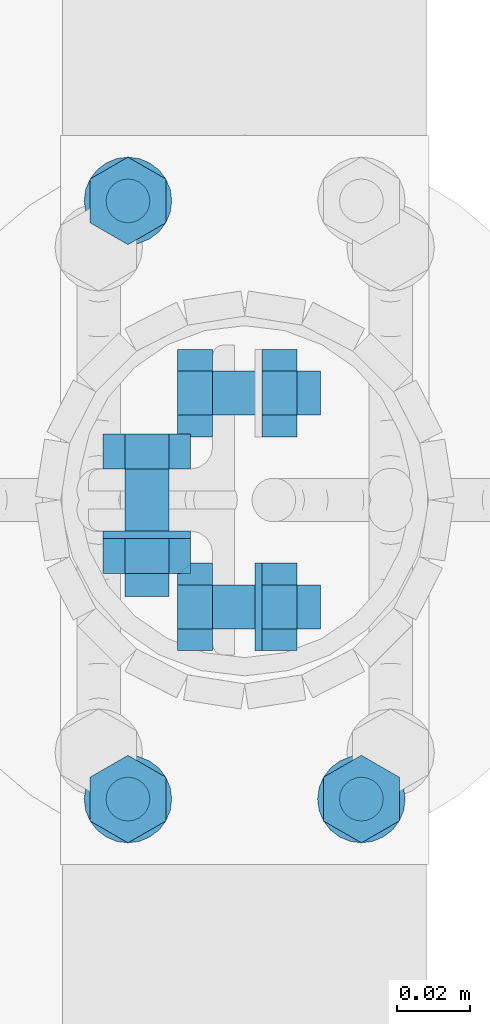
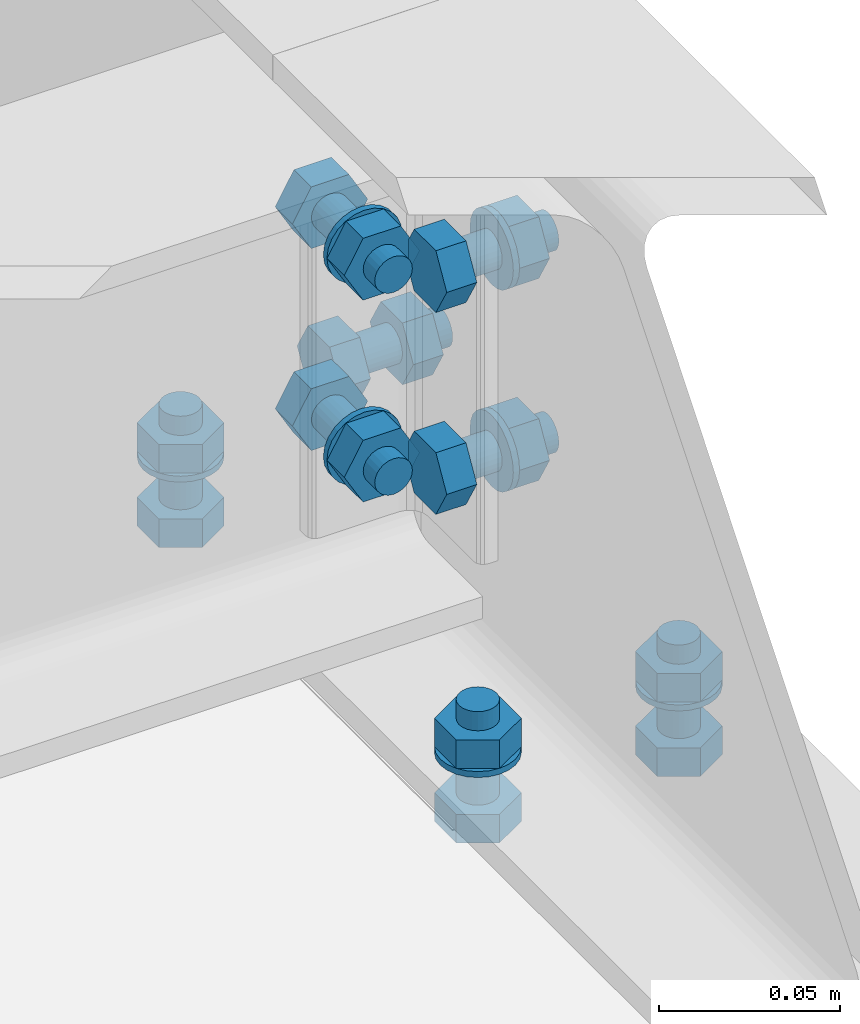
# One storey, part 83 of 84: 39 mechanical fasteners.
"""IFC4 building model written with IfcOpenShell, lengths in metres."""

from ifc_helpers import new_model, si_unit, frame, origin_with_axes, place, context, project, spatial, polyline, outline, extrude, type_object, element, save


model = new_model("IFC4")

# Units and contexts
model_context = context("Model", 3, precision=1e-05, world=origin_with_axes())
ifc_project = project(units=[si_unit("LENGTHUNIT", "METRE"), si_unit("AREAUNIT", "SQUARE_METRE"), si_unit("VOLUMEUNIT", "CUBIC_METRE"), si_unit("MASSUNIT", "GRAM", prefix="KILO"), si_unit("TIMEUNIT", "SECOND"), si_unit("PLANEANGLEUNIT", "RADIAN"), si_unit("SOLIDANGLEUNIT", "STERADIAN"), si_unit("THERMODYNAMICTEMPERATUREUNIT", "DEGREE_CELSIUS")], contexts=[model_context])

# Site, building, storey
placement_1 = place(None, origin_with_axes())
site = spatial("IfcSite", under=ifc_project, at=placement_1, Name="Italia", CompositionType="ELEMENT")
building = spatial("IfcBuilding", under=site, at=placement_1, Name="Tettoia", CompositionType="ELEMENT")
storey_placement = place(None, frame((0.0, 0.0, 4.199999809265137), z_axis=(0.0, 0.0, 1.0), x_axis=(1.0, 0.0, 0.0)))
storey = spatial("IfcBuildingStorey", under=building, at=storey_placement, Name="Storey 1", CompositionType="ELEMENT", Elevation=4.199999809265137)

# Mechanical fasteners
mechanical_fastener_type_1 = type_object("IfcMechanicalFastenerType", Name="Collegamento 0115_-015", PredefinedType="BOLT")
placement_2 = place(placement_1, origin_with_axes())
mechanical_fastener_1_placement = place(placement_2, origin_with_axes())
element("IfcMechanicalFastener", 1, at=mechanical_fastener_1_placement, inside=storey, type_object=mechanical_fastener_type_1, Name="Collegamento 0115_-015", NominalDiameter=0.0119991, context=model_context, shape_type="SweptSolid", body=[
    extrude(outline(polyline([(0.0, 0.0), (0.0119991, 0.0), (0.0179996, -0.0103922), (0.0119991, -0.0207844), (0.0, -0.0207844), (-0.00600052, -0.0103922), (0.0, 0.0)])), frame((4.11239, 19.732, 4.195), z_axis=(0.0, 0.0, -1.0), x_axis=(0.0, 1.0, 0.0)), (0.0, 0.0, 1.0), 0.00959969),
])
mechanical_fastener_type_2 = type_object("IfcMechanicalFastenerType", Name="Collegamento 0115_-015", PredefinedType="BOLT")
mechanical_fastener_2_placement = place(placement_2, origin_with_axes())
element("IfcMechanicalFastener", 2, at=mechanical_fastener_2_placement, inside=storey, type_object=mechanical_fastener_type_2, Name="Collegamento 0115_-015", NominalDiameter=0.012, context=model_context, shape_type="SweptSolid", body=[
    extrude(outline(polyline([(0.0, 0.0), (-0.000204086, -0.00155306), (-0.000804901, -0.00299978), (-0.00175858, -0.00424242), (-0.00300026, -0.00519609), (-0.00444794, -0.00579548), (-0.00600052, -0.00600004), (-0.0075531, -0.00579548), (-0.00900078, -0.00519609), (-0.0102425, -0.00424242), (-0.0111961, -0.00299978), (-0.011797, -0.00155306), (-0.012001, 0.0), (-0.011797, 0.00155306), (-0.0111961, 0.00299978), (-0.0102425, 0.00424242), (-0.00900078, 0.00519609), (-0.0075531, 0.00579548), (-0.00600052, 0.00600004), (-0.00444794, 0.00579548), (-0.00300026, 0.00519609), (-0.00175858, 0.00424242), (-0.000804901, 0.00299978), (-0.000204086, 0.00155306), (0.0, 0.0)])), frame((4.102, 19.744, 4.2265), z_axis=(0.0, 0.0, -1.0), x_axis=(0.0, 1.0, 0.0)), (0.0, 0.0, 1.0), 0.0315003),
])
mechanical_fastener_type_3 = type_object("IfcMechanicalFastenerType", Name="Collegamento 0115_-015", PredefinedType="BOLT")
mechanical_fastener_3_placement = place(placement_2, origin_with_axes())
element("IfcMechanicalFastener", 3, at=mechanical_fastener_3_placement, inside=storey, type_object=mechanical_fastener_type_3, Name="Collegamento 0115_-015", NominalDiameter=0.0119991, context=model_context, shape_type="SweptSolid", body=[
    extrude(outline(polyline([(0.0, 0.0), (0.0119991, 0.0), (0.0179996, -0.0103922), (0.0119991, -0.0207844), (0.0, -0.0207844), (-0.00600052, -0.0103922), (0.0, 0.0)])), frame((4.11239, 19.732, 4.2201), z_axis=(0.0, 0.0, -1.0), x_axis=(0.0, 1.0, 0.0)), (0.0, 0.0, 1.0), 0.00960016),
])
mechanical_fastener_type_4 = type_object("IfcMechanicalFastenerType", Name="Collegamento 0115_-015", PredefinedType="BOLT")
mechanical_fastener_4_placement = place(placement_2, origin_with_axes())
element("IfcMechanicalFastener", 4, at=mechanical_fastener_4_placement, inside=storey, type_object=mechanical_fastener_type_4, Name="Collegamento 0115_-015", NominalDiameter=0.024, context=model_context, shape_type="SweptSolid", body=[
    extrude(outline(polyline([(0.0, 0.0), (-0.000408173, -0.00310564), (-0.00160599, -0.00600004), (-0.00351334, -0.00848532), (-0.00599861, -0.0103922), (-0.00889397, -0.011591), (-0.0119991, -0.0120001), (-0.0151043, -0.011591), (-0.0179996, -0.0103922), (-0.0204849, -0.00848532), (-0.0223923, -0.00600004), (-0.0235901, -0.00310564), (-0.0239983, 0.0), (-0.0235901, 0.00310564), (-0.0223923, 0.00600004), (-0.0204849, 0.00848532), (-0.0179996, 0.0103922), (-0.0151043, 0.011591), (-0.0119991, 0.0120001), (-0.00889397, 0.011591), (-0.00599861, 0.0103922), (-0.00351334, 0.00848532), (-0.00160599, 0.00600004), (-0.000408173, 0.00310564), (0.0, 0.0)])), frame((4.102, 19.75, 4.2105), z_axis=(0.0, 0.0, -1.0), x_axis=(0.0, 1.0, 0.0)), (0.0, 0.0, 1.0), 0.00199986),
])
mechanical_fastener_type_5 = type_object("IfcMechanicalFastenerType", Name="Collegamento 0115_-015", PredefinedType="BOLT")
mechanical_fastener_5_placement = place(placement_2, origin_with_axes())
element("IfcMechanicalFastener", 5, at=mechanical_fastener_5_placement, inside=storey, type_object=mechanical_fastener_type_5, Name="Collegamento 0115_-015", NominalDiameter=0.0119991, context=model_context, shape_type="SweptSolid", body=[
    extrude(outline(polyline([(0.0, 0.0), (0.0119991, 0.0), (0.0179996, -0.0103922), (0.0119991, -0.0207844), (0.0, -0.0207844), (-0.00600052, -0.0103922), (0.0, 0.0)])), frame((4.04839, 19.896, 4.195), z_axis=(0.0, 0.0, -1.0), x_axis=(0.0, 1.0, 0.0)), (0.0, 0.0, 1.0), 0.00959969),
])
mechanical_fastener_type_6 = type_object("IfcMechanicalFastenerType", Name="Collegamento 0115_-015", PredefinedType="BOLT")
mechanical_fastener_6_placement = place(placement_2, origin_with_axes())
element("IfcMechanicalFastener", 6, at=mechanical_fastener_6_placement, inside=storey, type_object=mechanical_fastener_type_6, Name="Collegamento 0115_-015", NominalDiameter=0.012, context=model_context, shape_type="SweptSolid", body=[
    extrude(outline(polyline([(0.0, 0.0), (-0.000204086, -0.00155306), (-0.000804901, -0.00299978), (-0.00175858, -0.00424242), (-0.00300026, -0.00519609), (-0.00444794, -0.00579548), (-0.00600052, -0.00600004), (-0.0075531, -0.00579548), (-0.00900078, -0.00519609), (-0.0102425, -0.00424242), (-0.0111961, -0.00299978), (-0.011797, -0.00155306), (-0.012001, 0.0), (-0.011797, 0.00155306), (-0.0111961, 0.00299978), (-0.0102425, 0.00424242), (-0.00900078, 0.00519609), (-0.0075531, 0.00579548), (-0.00600052, 0.00600004), (-0.00444794, 0.00579548), (-0.00300026, 0.00519609), (-0.00175858, 0.00424242), (-0.000804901, 0.00299978), (-0.000204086, 0.00155306), (0.0, 0.0)])), frame((4.038, 19.908, 4.2265), z_axis=(0.0, 0.0, -1.0), x_axis=(0.0, 1.0, 0.0)), (0.0, 0.0, 1.0), 0.0315003),
])
mechanical_fastener_type_7 = type_object("IfcMechanicalFastenerType", Name="Collegamento 0115_-015", PredefinedType="BOLT")
mechanical_fastener_7_placement = place(placement_2, origin_with_axes())
element("IfcMechanicalFastener", 7, at=mechanical_fastener_7_placement, inside=storey, type_object=mechanical_fastener_type_7, Name="Collegamento 0115_-015", NominalDiameter=0.0119991, context=model_context, shape_type="SweptSolid", body=[
    extrude(outline(polyline([(0.0, 0.0), (0.0119991, 0.0), (0.0179996, -0.0103922), (0.0119991, -0.0207844), (0.0, -0.0207844), (-0.00600052, -0.0103922), (0.0, 0.0)])), frame((4.04839, 19.896, 4.2201), z_axis=(0.0, 0.0, -1.0), x_axis=(0.0, 1.0, 0.0)), (0.0, 0.0, 1.0), 0.00960016),
])
mechanical_fastener_type_8 = type_object("IfcMechanicalFastenerType", Name="Collegamento 0115_-015", PredefinedType="BOLT")
mechanical_fastener_8_placement = place(placement_2, origin_with_axes())
element("IfcMechanicalFastener", 8, at=mechanical_fastener_8_placement, inside=storey, type_object=mechanical_fastener_type_8, Name="Collegamento 0115_-015", NominalDiameter=0.024, context=model_context, shape_type="SweptSolid", body=[
    extrude(outline(polyline([(0.0, 0.0), (-0.000408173, -0.00310564), (-0.00160599, -0.00600004), (-0.00351334, -0.00848532), (-0.00599861, -0.0103922), (-0.00889397, -0.011591), (-0.0119991, -0.0120001), (-0.0151043, -0.011591), (-0.0179996, -0.0103922), (-0.0204849, -0.00848532), (-0.0223923, -0.00600004), (-0.0235901, -0.00310564), (-0.0239983, 0.0), (-0.0235901, 0.00310564), (-0.0223923, 0.00600004), (-0.0204849, 0.00848532), (-0.0179996, 0.0103922), (-0.0151043, 0.011591), (-0.0119991, 0.0120001), (-0.00889397, 0.011591), (-0.00599861, 0.0103922), (-0.00351334, 0.00848532), (-0.00160599, 0.00600004), (-0.000408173, 0.00310564), (0.0, 0.0)])), frame((4.038, 19.914, 4.2105), z_axis=(0.0, 0.0, -1.0), x_axis=(0.0, 1.0, 0.0)), (0.0, 0.0, 1.0), 0.00199986),
])
mechanical_fastener_type_9 = type_object("IfcMechanicalFastenerType", Name="Collegamento 0115_-015", PredefinedType="BOLT")
mechanical_fastener_9_placement = place(placement_2, origin_with_axes())
element("IfcMechanicalFastener", 9, at=mechanical_fastener_9_placement, inside=storey, type_object=mechanical_fastener_type_9, Name="Collegamento 0115_-015", NominalDiameter=0.0119991, context=model_context, shape_type="SweptSolid", body=[
    extrude(outline(polyline([(0.0, 0.0), (0.0119991, 0.0), (0.0179996, -0.0103922), (0.0119991, -0.0207844), (0.0, -0.0207844), (-0.00600052, -0.0103922), (0.0, 0.0)])), frame((4.04839, 19.732, 4.195), z_axis=(0.0, 0.0, -1.0), x_axis=(0.0, 1.0, 0.0)), (0.0, 0.0, 1.0), 0.00959969),
])
mechanical_fastener_type_10 = type_object("IfcMechanicalFastenerType", Name="Collegamento 0115_-015", PredefinedType="BOLT")
mechanical_fastener_10_placement = place(placement_2, origin_with_axes())
element("IfcMechanicalFastener", 10, at=mechanical_fastener_10_placement, inside=storey, type_object=mechanical_fastener_type_10, Name="Collegamento 0115_-015", NominalDiameter=0.012, context=model_context, shape_type="SweptSolid", body=[
    extrude(outline(polyline([(0.0, 0.0), (-0.000204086, -0.00155306), (-0.000804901, -0.00299978), (-0.00175858, -0.00424242), (-0.00300026, -0.00519609), (-0.00444794, -0.00579548), (-0.00600052, -0.00600004), (-0.0075531, -0.00579548), (-0.00900078, -0.00519609), (-0.0102425, -0.00424242), (-0.0111961, -0.00299978), (-0.011797, -0.00155306), (-0.012001, 0.0), (-0.011797, 0.00155306), (-0.0111961, 0.00299978), (-0.0102425, 0.00424242), (-0.00900078, 0.00519609), (-0.0075531, 0.00579548), (-0.00600052, 0.00600004), (-0.00444794, 0.00579548), (-0.00300026, 0.00519609), (-0.00175858, 0.00424242), (-0.000804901, 0.00299978), (-0.000204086, 0.00155306), (0.0, 0.0)])), frame((4.038, 19.744, 4.2265), z_axis=(0.0, 0.0, -1.0), x_axis=(0.0, 1.0, 0.0)), (0.0, 0.0, 1.0), 0.0315003),
])
mechanical_fastener_type_11 = type_object("IfcMechanicalFastenerType", Name="Collegamento 0115_-015", PredefinedType="BOLT")
mechanical_fastener_11_placement = place(placement_2, origin_with_axes())
element("IfcMechanicalFastener", 11, at=mechanical_fastener_11_placement, inside=storey, type_object=mechanical_fastener_type_11, Name="Collegamento 0115_-015", NominalDiameter=0.0119991, context=model_context, shape_type="SweptSolid", body=[
    extrude(outline(polyline([(0.0, 0.0), (0.0119991, 0.0), (0.0179996, -0.0103922), (0.0119991, -0.0207844), (0.0, -0.0207844), (-0.00600052, -0.0103922), (0.0, 0.0)])), frame((4.04839, 19.732, 4.2201), z_axis=(0.0, 0.0, -1.0), x_axis=(0.0, 1.0, 0.0)), (0.0, 0.0, 1.0), 0.00960016),
])
mechanical_fastener_type_12 = type_object("IfcMechanicalFastenerType", Name="Collegamento 0115_-015", PredefinedType="BOLT")
mechanical_fastener_12_placement = place(placement_2, origin_with_axes())
element("IfcMechanicalFastener", 12, at=mechanical_fastener_12_placement, inside=storey, type_object=mechanical_fastener_type_12, Name="Collegamento 0115_-015", NominalDiameter=0.024, context=model_context, shape_type="SweptSolid", body=[
    extrude(outline(polyline([(0.0, 0.0), (-0.000408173, -0.00310564), (-0.00160599, -0.00600004), (-0.00351334, -0.00848532), (-0.00599861, -0.0103922), (-0.00889397, -0.011591), (-0.0119991, -0.0120001), (-0.0151043, -0.011591), (-0.0179996, -0.0103922), (-0.0204849, -0.00848532), (-0.0223923, -0.00600004), (-0.0235901, -0.00310564), (-0.0239983, 0.0), (-0.0235901, 0.00310564), (-0.0223923, 0.00600004), (-0.0204849, 0.00848532), (-0.0179996, 0.0103922), (-0.0151043, 0.011591), (-0.0119991, 0.0120001), (-0.00889397, 0.011591), (-0.00599861, 0.0103922), (-0.00351334, 0.00848532), (-0.00160599, 0.00600004), (-0.000408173, 0.00310564), (0.0, 0.0)])), frame((4.038, 19.75, 4.2105), z_axis=(0.0, 0.0, -1.0), x_axis=(0.0, 1.0, 0.0)), (0.0, 0.0, 1.0), 0.00199986),
])
mechanical_fastener_type_13 = type_object("IfcMechanicalFastenerType", Name="Collegamento 0115_0114", PredefinedType="BOLT")
mechanical_fastener_13_placement = place(placement_2, origin_with_axes())
element("IfcMechanicalFastener", 13, at=mechanical_fastener_13_placement, inside=storey, type_object=mechanical_fastener_type_13, Name="Collegamento 0115_0114", NominalDiameter=0.0119997, context=model_context, shape_type="SweptSolid", body=[
    extrude(outline(polyline([(0.0, 0.0), (-0.0120001, 0.0), (-0.0180001, 0.0103922), (-0.0120001, 0.0207844), (0.0, 0.0207844), (0.00599957, 0.0103922), (0.0, 0.0)])), frame((4.0372, 19.8285, 4.25561), z_axis=(0.0, 1.0, 0.0), x_axis=(-1.0, 0.0, 0.0)), (0.0, 0.0, 1.0), 0.00960159),
])
mechanical_fastener_type_14 = type_object("IfcMechanicalFastenerType", Name="Collegamento 0115_0114", PredefinedType="BOLT")
mechanical_fastener_14_placement = place(placement_2, origin_with_axes())
element("IfcMechanicalFastener", 14, at=mechanical_fastener_14_placement, inside=storey, type_object=mechanical_fastener_type_14, Name="Collegamento 0115_0114", NominalDiameter=0.012, context=model_context, shape_type="SweptSolid", body=[
    extrude(outline(polyline([(0.0, 0.0), (-0.000204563, -0.00155306), (-0.000803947, -0.00299978), (-0.00175762, -0.00424242), (-0.00300026, -0.00519609), (-0.00444698, -0.00579548), (-0.00600004, -0.00600004), (-0.0075531, -0.00579548), (-0.00899982, -0.00519609), (-0.0102425, -0.00424242), (-0.0111961, -0.00299978), (-0.0117955, -0.00155306), (-0.0120001, 0.0), (-0.0117955, 0.00155306), (-0.0111961, 0.00299978), (-0.0102425, 0.00424242), (-0.00899982, 0.00519609), (-0.0075531, 0.00579548), (-0.00600004, 0.00600004), (-0.00444698, 0.00579548), (-0.00300026, 0.00519609), (-0.00175762, 0.00424242), (-0.000803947, 0.00299978), (-0.000204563, 0.00155306), (0.0, 0.0)])), frame((4.0372, 19.7935, 4.266), z_axis=(0.0, 1.0, 0.0), x_axis=(-1.0, 0.0, 0.0)), (0.0, 0.0, 1.0), 0.0349998),
])
mechanical_fastener_type_15 = type_object("IfcMechanicalFastenerType", Name="Collegamento 0115_0114", PredefinedType="BOLT")
mechanical_fastener_15_placement = place(placement_2, origin_with_axes())
element("IfcMechanicalFastener", 15, at=mechanical_fastener_15_placement, inside=storey, type_object=mechanical_fastener_type_15, Name="Collegamento 0115_0114", NominalDiameter=0.0119997, context=model_context, shape_type="SweptSolid", body=[
    extrude(outline(polyline([(0.0, 0.0), (-0.0120001, 0.0), (-0.0180001, 0.0103922), (-0.0120001, 0.0207844), (0.0, 0.0207844), (0.00599957, 0.0103922), (0.0, 0.0)])), frame((4.0372, 19.7999, 4.25561), z_axis=(0.0, 1.0, 0.0), x_axis=(-1.0, 0.0, 0.0)), (0.0, 0.0, 1.0), 0.00959969),
])
mechanical_fastener_type_16 = type_object("IfcMechanicalFastenerType", Name="Collegamento 0115_0114", PredefinedType="BOLT")
mechanical_fastener_16_placement = place(placement_2, origin_with_axes())
element("IfcMechanicalFastener", 16, at=mechanical_fastener_16_placement, inside=storey, type_object=mechanical_fastener_type_16, Name="Collegamento 0115_0114", NominalDiameter=0.024, context=model_context, shape_type="SweptSolid", body=[
    extrude(outline(polyline([(0.0, 0.0), (-0.000409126, -0.00310564), (-0.00160789, -0.00600004), (-0.00351477, -0.00848532), (-0.00600004, -0.0103922), (-0.00889444, -0.011591), (-0.0120001, -0.0120001), (-0.0151057, -0.011591), (-0.0180001, -0.0103922), (-0.0204854, -0.00848532), (-0.0223923, -0.00600004), (-0.023591, -0.00310564), (-0.0240002, 0.0), (-0.023591, 0.00310564), (-0.0223923, 0.00600004), (-0.0204854, 0.00848532), (-0.0180001, 0.0103922), (-0.0151057, 0.011591), (-0.0120001, 0.0120001), (-0.00889444, 0.011591), (-0.00600004, 0.0103922), (-0.00351477, 0.00848532), (-0.00160789, 0.00600004), (-0.000409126, 0.00310564), (0.0, 0.0)])), frame((4.0312, 19.8095, 4.266), z_axis=(0.0, 1.0, 0.0), x_axis=(-1.0, 0.0, 0.0)), (0.0, 0.0, 1.0), 0.00200081),
])
mechanical_fastener_type_17 = type_object("IfcMechanicalFastenerType", Name="Collegamento 0115_0114", PredefinedType="BOLT")
mechanical_fastener_17_placement = place(placement_2, origin_with_axes())
element("IfcMechanicalFastener", 17, at=mechanical_fastener_17_placement, inside=storey, type_object=mechanical_fastener_type_17, Name="Collegamento 0115_0114", NominalDiameter=0.0119997, context=model_context, shape_type="SweptSolid", body=[
    extrude(outline(polyline([(0.0, 0.0), (-0.0120001, 0.0), (-0.0180001, 0.0103922), (-0.0120001, 0.0207844), (0.0, 0.0207844), (0.00599957, 0.0103922), (0.0, 0.0)])), frame((4.0372, 19.8285, 4.32361), z_axis=(0.0, 1.0, 0.0), x_axis=(-1.0, 0.0, 0.0)), (0.0, 0.0, 1.0), 0.00960159),
])
mechanical_fastener_type_18 = type_object("IfcMechanicalFastenerType", Name="Collegamento 0115_0114", PredefinedType="BOLT")
mechanical_fastener_18_placement = place(placement_2, origin_with_axes())
element("IfcMechanicalFastener", 18, at=mechanical_fastener_18_placement, inside=storey, type_object=mechanical_fastener_type_18, Name="Collegamento 0115_0114", NominalDiameter=0.012, context=model_context, shape_type="SweptSolid", body=[
    extrude(outline(polyline([(0.0, 0.0), (-0.000204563, -0.00155306), (-0.000803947, -0.00299978), (-0.00175762, -0.00424242), (-0.00300026, -0.00519609), (-0.00444698, -0.00579548), (-0.00600004, -0.00600004), (-0.0075531, -0.00579548), (-0.00899982, -0.00519609), (-0.0102425, -0.00424242), (-0.0111961, -0.00299978), (-0.0117955, -0.00155306), (-0.0120001, 0.0), (-0.0117955, 0.00155306), (-0.0111961, 0.00299978), (-0.0102425, 0.00424242), (-0.00899982, 0.00519609), (-0.0075531, 0.00579548), (-0.00600004, 0.00600004), (-0.00444698, 0.00579548), (-0.00300026, 0.00519609), (-0.00175762, 0.00424242), (-0.000803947, 0.00299978), (-0.000204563, 0.00155306), (0.0, 0.0)])), frame((4.0372, 19.7935, 4.334), z_axis=(0.0, 1.0, 0.0), x_axis=(-1.0, 0.0, 0.0)), (0.0, 0.0, 1.0), 0.0349998),
])
mechanical_fastener_type_19 = type_object("IfcMechanicalFastenerType", Name="Collegamento 0115_0114", PredefinedType="BOLT")
mechanical_fastener_19_placement = place(placement_2, origin_with_axes())
element("IfcMechanicalFastener", 19, at=mechanical_fastener_19_placement, inside=storey, type_object=mechanical_fastener_type_19, Name="Collegamento 0115_0114", NominalDiameter=0.0119997, context=model_context, shape_type="SweptSolid", body=[
    extrude(outline(polyline([(0.0, 0.0), (-0.0120001, 0.0), (-0.0180001, 0.0103922), (-0.0120001, 0.0207844), (0.0, 0.0207844), (0.00599957, 0.0103922), (0.0, 0.0)])), frame((4.0372, 19.7999, 4.32361), z_axis=(0.0, 1.0, 0.0), x_axis=(-1.0, 0.0, 0.0)), (0.0, 0.0, 1.0), 0.00959969),
])
mechanical_fastener_type_20 = type_object("IfcMechanicalFastenerType", Name="Collegamento 0115_0114", PredefinedType="BOLT")
mechanical_fastener_20_placement = place(placement_2, origin_with_axes())
element("IfcMechanicalFastener", 20, at=mechanical_fastener_20_placement, inside=storey, type_object=mechanical_fastener_type_20, Name="Collegamento 0115_0114", NominalDiameter=0.024, context=model_context, shape_type="SweptSolid", body=[
    extrude(outline(polyline([(0.0, 0.0), (-0.000409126, -0.00310564), (-0.00160789, -0.00600004), (-0.00351477, -0.00848532), (-0.00600004, -0.0103922), (-0.00889444, -0.011591), (-0.0120001, -0.0120001), (-0.0151057, -0.011591), (-0.0180001, -0.0103922), (-0.0204854, -0.00848532), (-0.0223923, -0.00600004), (-0.023591, -0.00310564), (-0.0240002, 0.0), (-0.023591, 0.00310564), (-0.0223923, 0.00600004), (-0.0204854, 0.00848532), (-0.0180001, 0.0103922), (-0.0151057, 0.011591), (-0.0120001, 0.0120001), (-0.00889444, 0.011591), (-0.00600004, 0.0103922), (-0.00351477, 0.00848532), (-0.00160789, 0.00600004), (-0.000409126, 0.00310564), (0.0, 0.0)])), frame((4.0312, 19.8095, 4.334), z_axis=(0.0, 1.0, 0.0), x_axis=(-1.0, 0.0, 0.0)), (0.0, 0.0, 1.0), 0.00200081),
])
mechanical_fastener_type_21 = type_object("IfcMechanicalFastenerType", Name="Collegamento 0115_0114", PredefinedType="BOLT")
mechanical_fastener_21_placement = place(placement_2, origin_with_axes())
element("IfcMechanicalFastener", 21, at=mechanical_fastener_21_placement, inside=storey, type_object=mechanical_fastener_type_21, Name="Collegamento 0115_0114", NominalDiameter=0.0119997, context=model_context, shape_type="SweptSolid", body=[
    extrude(outline(polyline([(0.0, 0.0), (-0.0120001, 0.0), (-0.0180001, 0.0103922), (-0.0120001, 0.0207844), (0.0, 0.0207844), (0.00599957, 0.0103922), (0.0, 0.0)])), frame((4.0372, 19.8285, 4.25561), z_axis=(0.0, 1.0, 0.0), x_axis=(-1.0, 0.0, 0.0)), (0.0, 0.0, 1.0), 0.00960159),
])
mechanical_fastener_type_22 = type_object("IfcMechanicalFastenerType", Name="Collegamento 0115_0114", PredefinedType="BOLT")
mechanical_fastener_22_placement = place(placement_2, origin_with_axes())
element("IfcMechanicalFastener", 22, at=mechanical_fastener_22_placement, inside=storey, type_object=mechanical_fastener_type_22, Name="Collegamento 0115_0114", NominalDiameter=0.012, context=model_context, shape_type="SweptSolid", body=[
    extrude(outline(polyline([(0.0, 0.0), (-0.000204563, -0.00155306), (-0.000803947, -0.00299978), (-0.00175762, -0.00424242), (-0.00300026, -0.00519609), (-0.00444698, -0.00579548), (-0.00600004, -0.00600004), (-0.0075531, -0.00579548), (-0.00899982, -0.00519609), (-0.0102425, -0.00424242), (-0.0111961, -0.00299978), (-0.0117955, -0.00155306), (-0.0120001, 0.0), (-0.0117955, 0.00155306), (-0.0111961, 0.00299978), (-0.0102425, 0.00424242), (-0.00899982, 0.00519609), (-0.0075531, 0.00579548), (-0.00600004, 0.00600004), (-0.00444698, 0.00579548), (-0.00300026, 0.00519609), (-0.00175762, 0.00424242), (-0.000803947, 0.00299978), (-0.000204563, 0.00155306), (0.0, 0.0)])), frame((4.0372, 19.7935, 4.266), z_axis=(0.0, 1.0, 0.0), x_axis=(-1.0, 0.0, 0.0)), (0.0, 0.0, 1.0), 0.0349998),
])
mechanical_fastener_type_23 = type_object("IfcMechanicalFastenerType", Name="Collegamento 0115_0114", PredefinedType="BOLT")
mechanical_fastener_23_placement = place(placement_2, origin_with_axes())
element("IfcMechanicalFastener", 23, at=mechanical_fastener_23_placement, inside=storey, type_object=mechanical_fastener_type_23, Name="Collegamento 0115_0114", NominalDiameter=0.0119997, context=model_context, shape_type="SweptSolid", body=[
    extrude(outline(polyline([(0.0, 0.0), (-0.0120001, 0.0), (-0.0180001, 0.0103922), (-0.0120001, 0.0207844), (0.0, 0.0207844), (0.00599957, 0.0103922), (0.0, 0.0)])), frame((4.0372, 19.7999, 4.25561), z_axis=(0.0, 1.0, 0.0), x_axis=(-1.0, 0.0, 0.0)), (0.0, 0.0, 1.0), 0.00959969),
])
mechanical_fastener_type_24 = type_object("IfcMechanicalFastenerType", Name="Collegamento 0115_0114", PredefinedType="BOLT")
mechanical_fastener_24_placement = place(placement_2, origin_with_axes())
element("IfcMechanicalFastener", 24, at=mechanical_fastener_24_placement, inside=storey, type_object=mechanical_fastener_type_24, Name="Collegamento 0115_0114", NominalDiameter=0.024, context=model_context, shape_type="SweptSolid", body=[
    extrude(outline(polyline([(0.0, 0.0), (-0.000409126, -0.00310564), (-0.00160789, -0.00600004), (-0.00351477, -0.00848532), (-0.00600004, -0.0103922), (-0.00889444, -0.011591), (-0.0120001, -0.0120001), (-0.0151057, -0.011591), (-0.0180001, -0.0103922), (-0.0204854, -0.00848532), (-0.0223923, -0.00600004), (-0.023591, -0.00310564), (-0.0240002, 0.0), (-0.023591, 0.00310564), (-0.0223923, 0.00600004), (-0.0204854, 0.00848532), (-0.0180001, 0.0103922), (-0.0151057, 0.011591), (-0.0120001, 0.0120001), (-0.00889444, 0.011591), (-0.00600004, 0.0103922), (-0.00351477, 0.00848532), (-0.00160789, 0.00600004), (-0.000409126, 0.00310564), (0.0, 0.0)])), frame((4.0312, 19.8095, 4.266), z_axis=(0.0, 1.0, 0.0), x_axis=(-1.0, 0.0, 0.0)), (0.0, 0.0, 1.0), 0.00200081),
])
mechanical_fastener_type_25 = type_object("IfcMechanicalFastenerType", Name="Collegamento 0115_0114", PredefinedType="BOLT")
mechanical_fastener_25_placement = place(placement_2, origin_with_axes())
element("IfcMechanicalFastener", 25, at=mechanical_fastener_25_placement, inside=storey, type_object=mechanical_fastener_type_25, Name="Collegamento 0115_0114", NominalDiameter=0.0119997, context=model_context, shape_type="SweptSolid", body=[
    extrude(outline(polyline([(0.0, 0.0), (-0.0120001, 0.0), (-0.0180001, 0.0103922), (-0.0120001, 0.0207844), (0.0, 0.0207844), (0.00599957, 0.0103922), (0.0, 0.0)])), frame((4.0372, 19.8285, 4.32361), z_axis=(0.0, 1.0, 0.0), x_axis=(-1.0, 0.0, 0.0)), (0.0, 0.0, 1.0), 0.00960159),
])
mechanical_fastener_type_26 = type_object("IfcMechanicalFastenerType", Name="Collegamento 0115_0114", PredefinedType="BOLT")
mechanical_fastener_26_placement = place(placement_2, origin_with_axes())
element("IfcMechanicalFastener", 26, at=mechanical_fastener_26_placement, inside=storey, type_object=mechanical_fastener_type_26, Name="Collegamento 0115_0114", NominalDiameter=0.012, context=model_context, shape_type="SweptSolid", body=[
    extrude(outline(polyline([(0.0, 0.0), (-0.000204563, -0.00155306), (-0.000803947, -0.00299978), (-0.00175762, -0.00424242), (-0.00300026, -0.00519609), (-0.00444698, -0.00579548), (-0.00600004, -0.00600004), (-0.0075531, -0.00579548), (-0.00899982, -0.00519609), (-0.0102425, -0.00424242), (-0.0111961, -0.00299978), (-0.0117955, -0.00155306), (-0.0120001, 0.0), (-0.0117955, 0.00155306), (-0.0111961, 0.00299978), (-0.0102425, 0.00424242), (-0.00899982, 0.00519609), (-0.0075531, 0.00579548), (-0.00600004, 0.00600004), (-0.00444698, 0.00579548), (-0.00300026, 0.00519609), (-0.00175762, 0.00424242), (-0.000803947, 0.00299978), (-0.000204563, 0.00155306), (0.0, 0.0)])), frame((4.0372, 19.7935, 4.334), z_axis=(0.0, 1.0, 0.0), x_axis=(-1.0, 0.0, 0.0)), (0.0, 0.0, 1.0), 0.0349998),
])
mechanical_fastener_type_27 = type_object("IfcMechanicalFastenerType", Name="Collegamento 0115_0114", PredefinedType="BOLT")
mechanical_fastener_27_placement = place(placement_2, origin_with_axes())
element("IfcMechanicalFastener", 27, at=mechanical_fastener_27_placement, inside=storey, type_object=mechanical_fastener_type_27, Name="Collegamento 0115_0114", NominalDiameter=0.0119997, context=model_context, shape_type="SweptSolid", body=[
    extrude(outline(polyline([(0.0, 0.0), (-0.0120001, 0.0), (-0.0180001, 0.0103922), (-0.0120001, 0.0207844), (0.0, 0.0207844), (0.00599957, 0.0103922), (0.0, 0.0)])), frame((4.0372, 19.7999, 4.32361), z_axis=(0.0, 1.0, 0.0), x_axis=(-1.0, 0.0, 0.0)), (0.0, 0.0, 1.0), 0.00959969),
])
mechanical_fastener_type_28 = type_object("IfcMechanicalFastenerType", Name="Collegamento 0115_0114", PredefinedType="BOLT")
mechanical_fastener_28_placement = place(placement_2, origin_with_axes())
element("IfcMechanicalFastener", 28, at=mechanical_fastener_28_placement, inside=storey, type_object=mechanical_fastener_type_28, Name="Collegamento 0115_0114", NominalDiameter=0.024, context=model_context, shape_type="SweptSolid", body=[
    extrude(outline(polyline([(0.0, 0.0), (-0.000409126, -0.00310564), (-0.00160789, -0.00600004), (-0.00351477, -0.00848532), (-0.00600004, -0.0103922), (-0.00889444, -0.011591), (-0.0120001, -0.0120001), (-0.0151057, -0.011591), (-0.0180001, -0.0103922), (-0.0204854, -0.00848532), (-0.0223923, -0.00600004), (-0.023591, -0.00310564), (-0.0240002, 0.0), (-0.023591, 0.00310564), (-0.0223923, 0.00600004), (-0.0204854, 0.00848532), (-0.0180001, 0.0103922), (-0.0151057, 0.011591), (-0.0120001, 0.0120001), (-0.00889444, 0.011591), (-0.00600004, 0.0103922), (-0.00351477, 0.00848532), (-0.00160789, 0.00600004), (-0.000409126, 0.00310564), (0.0, 0.0)])), frame((4.0312, 19.8095, 4.334), z_axis=(0.0, 1.0, 0.0), x_axis=(-1.0, 0.0, 0.0)), (0.0, 0.0, 1.0), 0.00200081),
])
mechanical_fastener_type_29 = type_object("IfcMechanicalFastenerType", Name="Collegamento 0115_0114", PredefinedType="BOLT")
mechanical_fastener_29_placement = place(placement_2, origin_with_axes())
element("IfcMechanicalFastener", 29, at=mechanical_fastener_29_placement, inside=storey, type_object=mechanical_fastener_type_29, Name="Collegamento 0115_0114", NominalDiameter=0.0119991, context=model_context, shape_type="SweptSolid", body=[
    extrude(outline(polyline([(0.0, 0.0), (-0.0119991, 0.0), (-0.0179996, 0.0103922), (-0.0119991, 0.0207844), (0.0, 0.0207844), (0.00600052, 0.0103922), (0.0, 0.0)])), frame((4.0612, 19.7847, 4.25561), z_axis=(-1.0, 0.0, 0.0), x_axis=(0.0, -1.0, 0.0)), (0.0, 0.0, 1.0), 0.00960016),
])
mechanical_fastener_type_30 = type_object("IfcMechanicalFastenerType", Name="Collegamento 0115_0114", PredefinedType="BOLT")
mechanical_fastener_30_placement = place(placement_2, origin_with_axes())
element("IfcMechanicalFastener", 30, at=mechanical_fastener_30_placement, inside=storey, type_object=mechanical_fastener_type_30, Name="Collegamento 0115_0114", NominalDiameter=0.012, context=model_context, shape_type="SweptSolid", body=[
    extrude(outline(polyline([(0.0, 0.0), (-0.000204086, -0.00155306), (-0.000804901, -0.00299978), (-0.00175858, -0.00424242), (-0.00300026, -0.00519609), (-0.00444794, -0.00579548), (-0.00600052, -0.00600004), (-0.0075531, -0.00579548), (-0.00900078, -0.00519609), (-0.0102425, -0.00424242), (-0.0111961, -0.00299978), (-0.011797, -0.00155306), (-0.012001, 0.0), (-0.011797, 0.00155306), (-0.0111961, 0.00299978), (-0.0102425, 0.00424242), (-0.00900078, 0.00519609), (-0.0075531, 0.00579548), (-0.00600052, 0.00600004), (-0.00444794, 0.00579548), (-0.00300026, 0.00519609), (-0.00175858, 0.00424242), (-0.000804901, 0.00299978), (-0.000204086, 0.00155306), (0.0, 0.0)])), frame((4.0908, 19.7847, 4.266), z_axis=(-1.0, 0.0, 0.0), x_axis=(0.0, -1.0, 0.0)), (0.0, 0.0, 1.0), 0.0296001),
])
mechanical_fastener_type_31 = type_object("IfcMechanicalFastenerType", Name="Collegamento 0115_0114", PredefinedType="BOLT")
mechanical_fastener_31_placement = place(placement_2, origin_with_axes())
element("IfcMechanicalFastener", 31, at=mechanical_fastener_31_placement, inside=storey, type_object=mechanical_fastener_type_31, Name="Collegamento 0115_0114", NominalDiameter=0.0119991, context=model_context, shape_type="SweptSolid", body=[
    extrude(outline(polyline([(0.0, 0.0), (-0.0119991, 0.0), (-0.0179996, 0.0103922), (-0.0119991, 0.0207844), (0.0, 0.0207844), (0.00600052, 0.0103922), (0.0, 0.0)])), frame((4.0844, 19.7847, 4.25561), z_axis=(-1.0, 0.0, 0.0), x_axis=(0.0, -1.0, 0.0)), (0.0, 0.0, 1.0), 0.00960016),
])
mechanical_fastener_type_32 = type_object("IfcMechanicalFastenerType", Name="Collegamento 0115_0114", PredefinedType="BOLT")
mechanical_fastener_32_placement = place(placement_2, origin_with_axes())
element("IfcMechanicalFastener", 32, at=mechanical_fastener_32_placement, inside=storey, type_object=mechanical_fastener_type_32, Name="Collegamento 0115_0114", NominalDiameter=0.024, context=model_context, shape_type="SweptSolid", body=[
    extrude(outline(polyline([(0.0, 0.0), (-0.000408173, -0.00310564), (-0.00160599, -0.00600004), (-0.00351334, -0.00848532), (-0.00599861, -0.0103922), (-0.00889397, -0.011591), (-0.0119991, -0.0120001), (-0.0151043, -0.011591), (-0.0179996, -0.0103922), (-0.0204849, -0.00848532), (-0.0223923, -0.00600004), (-0.0235901, -0.00310564), (-0.0239983, 0.0), (-0.0235901, 0.00310564), (-0.0223923, 0.00600004), (-0.0204849, 0.00848532), (-0.0179996, 0.0103922), (-0.0151043, 0.011591), (-0.0119991, 0.0120001), (-0.00889397, 0.011591), (-0.00599861, 0.0103922), (-0.00351334, 0.00848532), (-0.00160599, 0.00600004), (-0.000408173, 0.00310564), (0.0, 0.0)])), frame((4.0748, 19.7787, 4.266), z_axis=(-1.0, 0.0, 0.0), x_axis=(0.0, -1.0, 0.0)), (0.0, 0.0, 1.0), 0.00199986),
])
mechanical_fastener_type_33 = type_object("IfcMechanicalFastenerType", Name="Collegamento 0115_0114", PredefinedType="BOLT")
mechanical_fastener_33_placement = place(placement_2, origin_with_axes())
element("IfcMechanicalFastener", 33, at=mechanical_fastener_33_placement, inside=storey, type_object=mechanical_fastener_type_33, Name="Collegamento 0115_0114", NominalDiameter=0.0119991, context=model_context, shape_type="SweptSolid", body=[
    extrude(outline(polyline([(0.0, 0.0), (-0.0119991, 0.0), (-0.0179996, 0.0103922), (-0.0119991, 0.0207844), (0.0, 0.0207844), (0.00600052, 0.0103922), (0.0, 0.0)])), frame((4.0612, 19.7847, 4.32361), z_axis=(-1.0, 0.0, 0.0), x_axis=(0.0, -1.0, 0.0)), (0.0, 0.0, 1.0), 0.00960016),
])
mechanical_fastener_type_34 = type_object("IfcMechanicalFastenerType", Name="Collegamento 0115_0114", PredefinedType="BOLT")
mechanical_fastener_34_placement = place(placement_2, origin_with_axes())
element("IfcMechanicalFastener", 34, at=mechanical_fastener_34_placement, inside=storey, type_object=mechanical_fastener_type_34, Name="Collegamento 0115_0114", NominalDiameter=0.012, context=model_context, shape_type="SweptSolid", body=[
    extrude(outline(polyline([(0.0, 0.0), (-0.000204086, -0.00155306), (-0.000804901, -0.00299978), (-0.00175858, -0.00424242), (-0.00300026, -0.00519609), (-0.00444794, -0.00579548), (-0.00600052, -0.00600004), (-0.0075531, -0.00579548), (-0.00900078, -0.00519609), (-0.0102425, -0.00424242), (-0.0111961, -0.00299978), (-0.011797, -0.00155306), (-0.012001, 0.0), (-0.011797, 0.00155306), (-0.0111961, 0.00299978), (-0.0102425, 0.00424242), (-0.00900078, 0.00519609), (-0.0075531, 0.00579548), (-0.00600052, 0.00600004), (-0.00444794, 0.00579548), (-0.00300026, 0.00519609), (-0.00175858, 0.00424242), (-0.000804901, 0.00299978), (-0.000204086, 0.00155306), (0.0, 0.0)])), frame((4.0908, 19.7847, 4.334), z_axis=(-1.0, 0.0, 0.0), x_axis=(0.0, -1.0, 0.0)), (0.0, 0.0, 1.0), 0.0296001),
])
mechanical_fastener_type_35 = type_object("IfcMechanicalFastenerType", Name="Collegamento 0115_0114", PredefinedType="BOLT")
mechanical_fastener_35_placement = place(placement_2, origin_with_axes())
element("IfcMechanicalFastener", 35, at=mechanical_fastener_35_placement, inside=storey, type_object=mechanical_fastener_type_35, Name="Collegamento 0115_0114", NominalDiameter=0.0119991, context=model_context, shape_type="SweptSolid", body=[
    extrude(outline(polyline([(0.0, 0.0), (-0.0119991, 0.0), (-0.0179996, 0.0103922), (-0.0119991, 0.0207844), (0.0, 0.0207844), (0.00600052, 0.0103922), (0.0, 0.0)])), frame((4.0844, 19.7847, 4.32361), z_axis=(-1.0, 0.0, 0.0), x_axis=(0.0, -1.0, 0.0)), (0.0, 0.0, 1.0), 0.00960016),
])
mechanical_fastener_type_36 = type_object("IfcMechanicalFastenerType", Name="Collegamento 0115_0114", PredefinedType="BOLT")
mechanical_fastener_36_placement = place(placement_2, origin_with_axes())
element("IfcMechanicalFastener", 36, at=mechanical_fastener_36_placement, inside=storey, type_object=mechanical_fastener_type_36, Name="Collegamento 0115_0114", NominalDiameter=0.024, context=model_context, shape_type="SweptSolid", body=[
    extrude(outline(polyline([(0.0, 0.0), (-0.000408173, -0.00310564), (-0.00160599, -0.00600004), (-0.00351334, -0.00848532), (-0.00599861, -0.0103922), (-0.00889397, -0.011591), (-0.0119991, -0.0120001), (-0.0151043, -0.011591), (-0.0179996, -0.0103922), (-0.0204849, -0.00848532), (-0.0223923, -0.00600004), (-0.0235901, -0.00310564), (-0.0239983, 0.0), (-0.0235901, 0.00310564), (-0.0223923, 0.00600004), (-0.0204849, 0.00848532), (-0.0179996, 0.0103922), (-0.0151043, 0.011591), (-0.0119991, 0.0120001), (-0.00889397, 0.011591), (-0.00599861, 0.0103922), (-0.00351334, 0.00848532), (-0.00160599, 0.00600004), (-0.000408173, 0.00310564), (0.0, 0.0)])), frame((4.0748, 19.7787, 4.334), z_axis=(-1.0, 0.0, 0.0), x_axis=(0.0, -1.0, 0.0)), (0.0, 0.0, 1.0), 0.00199986),
])
mechanical_fastener_type_37 = type_object("IfcMechanicalFastenerType", Name="Collegamento 0115_0114", PredefinedType="BOLT")
mechanical_fastener_37_placement = place(placement_2, origin_with_axes())
element("IfcMechanicalFastener", 37, at=mechanical_fastener_37_placement, inside=storey, type_object=mechanical_fastener_type_37, Name="Collegamento 0115_0114", NominalDiameter=0.0119991, context=model_context, shape_type="SweptSolid", body=[
    extrude(outline(polyline([(0.0, 0.0), (-0.0119991, 0.0), (-0.0179996, 0.0103922), (-0.0119991, 0.0207844), (0.0, 0.0207844), (0.00600052, 0.0103922), (0.0, 0.0)])), frame((4.0516, 19.8553, 4.25561), z_axis=(1.0, 0.0, 0.0), x_axis=(0.0, 1.0, 0.0)), (0.0, 0.0, 1.0), 0.00960016),
])
mechanical_fastener_type_38 = type_object("IfcMechanicalFastenerType", Name="Collegamento 0115_0114", PredefinedType="BOLT")
mechanical_fastener_38_placement = place(placement_2, origin_with_axes())
element("IfcMechanicalFastener", 38, at=mechanical_fastener_38_placement, inside=storey, type_object=mechanical_fastener_type_38, Name="Collegamento 0115_0114", NominalDiameter=0.012, context=model_context, shape_type="SweptSolid", body=[
    extrude(outline(polyline([(0.0, 0.0), (-0.000204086, -0.00155306), (-0.000804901, -0.00299978), (-0.00175858, -0.00424242), (-0.00300026, -0.00519609), (-0.00444794, -0.00579548), (-0.00600052, -0.00600004), (-0.0075531, -0.00579548), (-0.00900078, -0.00519609), (-0.0102425, -0.00424242), (-0.0111961, -0.00299978), (-0.011797, -0.00155306), (-0.012001, 0.0), (-0.011797, 0.00155306), (-0.0111961, 0.00299978), (-0.0102425, 0.00424242), (-0.00900078, 0.00519609), (-0.0075531, 0.00579548), (-0.00600052, 0.00600004), (-0.00444794, 0.00579548), (-0.00300026, 0.00519609), (-0.00175858, 0.00424242), (-0.000804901, 0.00299978), (-0.000204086, 0.00155306), (0.0, 0.0)])), frame((4.0612, 19.8553, 4.266), z_axis=(1.0, 0.0, 0.0), x_axis=(0.0, 1.0, 0.0)), (0.0, 0.0, 1.0), 0.0296001),
])
mechanical_fastener_type_39 = type_object("IfcMechanicalFastenerType", Name="Collegamento 0115_0114", PredefinedType="BOLT")
mechanical_fastener_39_placement = place(placement_2, origin_with_axes())
element("IfcMechanicalFastener", 39, at=mechanical_fastener_39_placement, inside=storey, type_object=mechanical_fastener_type_39, Name="Collegamento 0115_0114", NominalDiameter=0.0119991, context=model_context, shape_type="SweptSolid", body=[
    extrude(outline(polyline([(0.0, 0.0), (-0.0119991, 0.0), (-0.0179996, 0.0103922), (-0.0119991, 0.0207844), (0.0, 0.0207844), (0.00600052, 0.0103922), (0.0, 0.0)])), frame((4.0748, 19.8553, 4.25561), z_axis=(1.0, 0.0, 0.0), x_axis=(0.0, 1.0, 0.0)), (0.0, 0.0, 1.0), 0.00960016),
])

save(model, "model.ifc")
